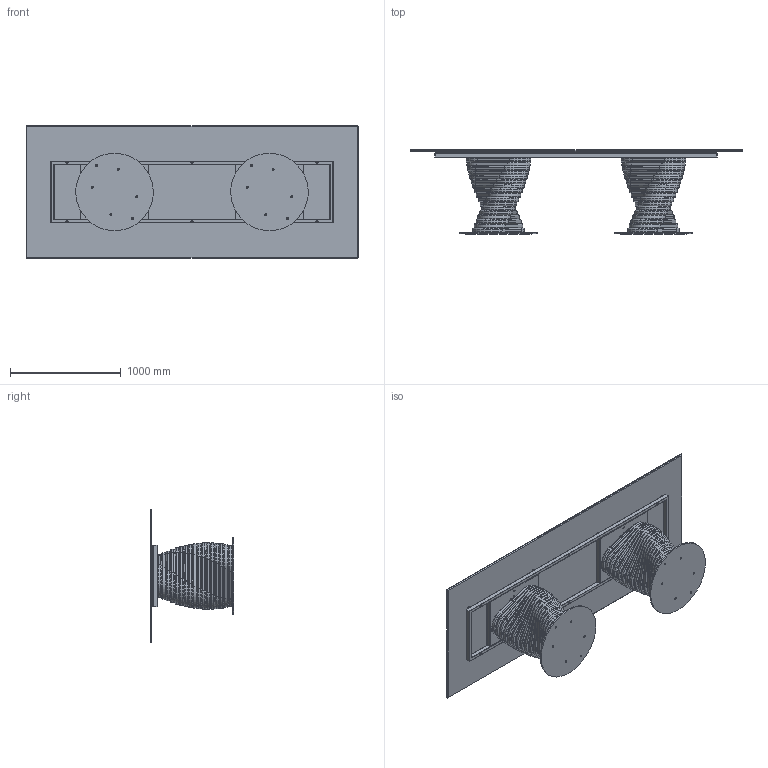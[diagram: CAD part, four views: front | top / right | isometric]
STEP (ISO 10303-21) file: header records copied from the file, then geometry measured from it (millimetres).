
FILE_DESCRIPTION (( 'STEP AP203' ), '1' );
FILE_NAME ('RO24C.STEP', '2024-08-07T13:17:47', ( '' ), ( '' ), 'SwSTEP 2.0', 'SolidWorks 2022', '' );
FILE_SCHEMA (( 'CONFIG_CONTROL_DESIGN' ));
Length unit declared in the file: millimetre
Products named in the file (15): ROBX00000MED-00-Anello rotolo MEDIO_Default<A macchina>; COLLO TELAIO UNIVERSALE TTAV03 CON FERRAMENTA_MTG TOP CRISTALLO VERNICIATO-CERAMICA; M8xXXmm_M8x20mm; ROB200000-00-PIASTRA BASE_Ø70cm; TTAV03_02-06-VASSOIO IRRIGIDIMENTO TELAIO UNIVERSALE RETTANGOLARE; TTAV03-06-TELAIO UNIVERSALE X TAVOLI 300-340cm; RO24C; ROBX00000SUP-00-Anello rotolo SUPERIORE_Default<A macchina>; ROBX00000-00-ROTOLO BASE 17 ANELLI; 434070-00-PIEDINO TPV GOMMA NERO D. 30x8max18_filo estetico; M8xXXmm_hex_M8X20mm; K2XCMXX-00-Piani Rettangolari in ceramica_3000 x 1200; ROBX00000INF-00-Anello rotolo INFERIORE_Default<A macchina>; TTAV03_01-06-RING TUBO TELAIO UNIVERSALE X TAVOLI 300-340cm; rondella M8_8X24
Assembly tree (63 placements, depth 4):
  RO24C
    ROB200000-00-PIASTRA BASE_Ø70cm  x2
    COLLO TELAIO UNIVERSALE TTAV03 CON FERRAMENTA_MTG TOP CRISTALLO VERNICIATO-CERAMICA
      TTAV03-06-TELAIO UNIVERSALE X TAVOLI 300-340cm
        TTAV03_01-06-RING TUBO TELAIO UNIVERSALE X TAVOLI 300-340cm
        TTAV03_02-06-VASSOIO IRRIGIDIMENTO TELAIO UNIVERSALE RETTANGOLARE  x2
      434070-00-PIEDINO TPV GOMMA NERO D. 30x8max18_filo estetico  x8
    ROBX00000-00-ROTOLO BASE 17 ANELLI  x2
      ROBX00000INF-00-Anello rotolo INFERIORE_Default<A macchina>
      ROBX00000MED-00-Anello rotolo MEDIO_Default<A macchina>
      ROBX00000SUP-00-Anello rotolo SUPERIORE_Default<A macchina>
    M8xXXmm_hex_M8X20mm  x12
    rondella M8_8X24  x8
    M8xXXmm_M8x20mm  x8
    K2XCMXX-00-Piani Rettangolari in ceramica_3000 x 1200
Bounding box: 3000 x 758 x 1200 mm (x, y, z)
Volume: 81017825.3 mm3; surface area: 29051745.1 mm2
Topology: 187 solids, 187 shells, 2844 faces, 6688 edges, 4172 vertices
Faces by surface type: plane 1180, cylinder 1000, torus 424, cone 232, sphere 8
Entity records: 21552 total; most frequent: CARTESIAN_POINT 4776, DIRECTION 3041, ORIENTED_EDGE 2768, EDGE_CURVE 1384, AXIS2_PLACEMENT_3D 1140, VERTEX_POINT 867, LINE 761, VECTOR 761
